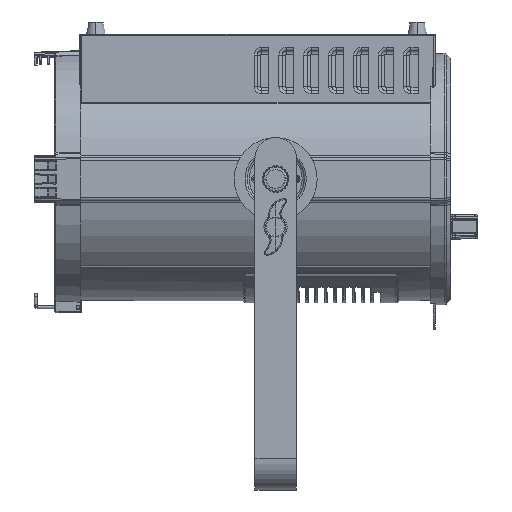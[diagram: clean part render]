
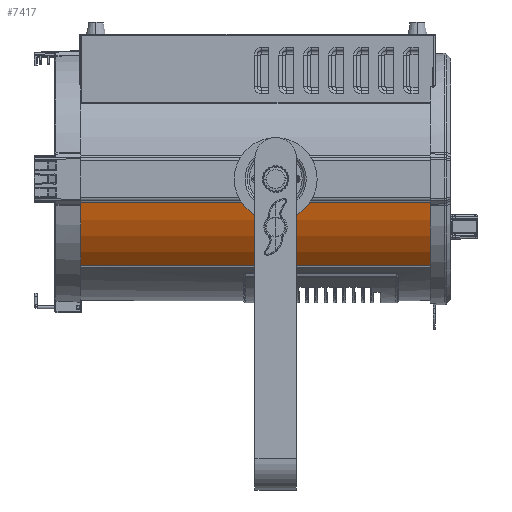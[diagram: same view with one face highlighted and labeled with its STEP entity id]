
A CAD part, left-side view. The second image highlights one B-rep face of the part: STEP entity #7417.
In plain terms, the highlighted cylindrical face has radius 117.5 mm (diameter 235 mm), a partial arc.
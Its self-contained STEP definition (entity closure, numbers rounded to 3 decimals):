
#3909=CARTESIAN_POINT('',(0.,172.,0.));
#3910=DIRECTION('',(0.,-1.,0.));
#3911=DIRECTION('',(0.982,0.,0.191));
#3912=AXIS2_PLACEMENT_3D('',#3909,#3910,#3911);
#4967=DIRECTION('',(0.,-1.,0.));
#4968=VECTOR('',#4967,344.);
#4969=CARTESIAN_POINT('',(82.853,172.,83.317));
#4970=LINE('',#4969,#4968);
#4974=DIRECTION('',(0.,-1.,0.));
#4975=VECTOR('',#4974,344.);
#4976=CARTESIAN_POINT('',(115.342,172.,22.414));
#4977=LINE('',#4976,#4975);
#4981=CARTESIAN_POINT('',(0.,-172.,0.));
#4982=DIRECTION('',(0.,-1.,0.));
#4983=DIRECTION('',(0.982,0.,0.191));
#4984=AXIS2_PLACEMENT_3D('',#4981,#4982,#4983);
#5853=CARTESIAN_POINT('',(115.342,172.,22.414));
#5854=CARTESIAN_POINT('',(115.342,-172.,22.414));
#5855=VERTEX_POINT('',#5853);
#5856=VERTEX_POINT('',#5854);
#5889=CARTESIAN_POINT('',(82.853,-172.,83.317));
#5891=VERTEX_POINT('',#5889);
#5895=CARTESIAN_POINT('',(82.853,172.,83.317));
#5896=VERTEX_POINT('',#5895);
#7404=CARTESIAN_POINT('',(0.,-172.,0.));
#7405=DIRECTION('',(0.,1.,0.));
#7406=DIRECTION('',(1.,0.,0.));
#7407=AXIS2_PLACEMENT_3D('',#7404,#7405,#7406);
#7408=CYLINDRICAL_SURFACE('',#7407,117.5);
#7410=ORIENTED_EDGE('',*,*,#7409,.F.);
#7411=ORIENTED_EDGE('',*,*,#6591,.F.);
#7413=ORIENTED_EDGE('',*,*,#7412,.T.);
#7414=ORIENTED_EDGE('',*,*,#6258,.T.);
#7415=EDGE_LOOP('',(#7410,#7411,#7413,#7414));
#7416=FACE_OUTER_BOUND('',#7415,.F.);
#3913=CIRCLE('',#3912,117.5);
#4985=CIRCLE('',#4984,117.5);
#6258=EDGE_CURVE('',#5856,#5891,#4985,.T.);
#6591=EDGE_CURVE('',#5855,#5896,#3913,.T.);
#7409=EDGE_CURVE('',#5896,#5891,#4970,.T.);
#7412=EDGE_CURVE('',#5855,#5856,#4977,.T.);
#7417=ADVANCED_FACE('',(#7416),#7408,.T.);
